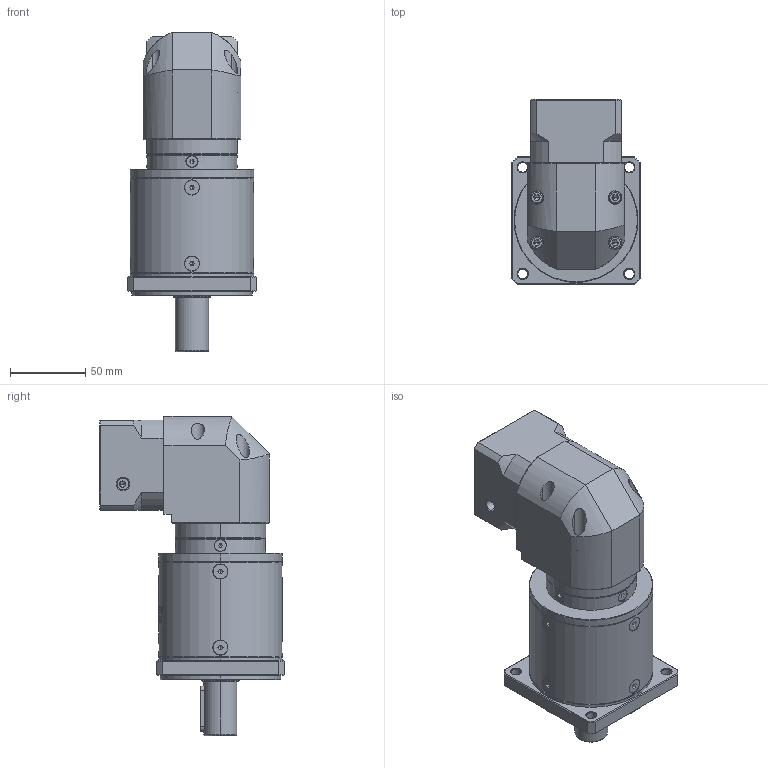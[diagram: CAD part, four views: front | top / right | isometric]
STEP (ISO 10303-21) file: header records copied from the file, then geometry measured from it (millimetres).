
FILE_DESCRIPTION (( 'STEP AP214' ), '1' );
FILE_NAME ('ZFR080-D22-L3-P2-6.35-38.1-47.14x47.14-M4.step', '2023-08-25T07:22:58', ( '' ), ( '' ), 'SwSTEP 2.0', 'SolidWorks 2016', '' );
FILE_SCHEMA (( 'AUTOMOTIVE_DESIGN' ));
Length unit declared in the file: millimetre
Products named in the file (1): ZFR080-D22-L3-P2-6.35-38.1-47.14x47.14-M4
Bounding box: 85 x 122.7 x 212 mm (x, y, z)
Volume: 895770.2 mm3; surface area: 108679.1 mm2
Topology: 17 solids, 18 shells, 2445 faces, 6370 edges, 4041 vertices
Faces by surface type: plane 1177, cylinder 444, bspline 406, cone 382, torus 36
Entity records: 125083 total; most frequent: CARTESIAN_POINT 43119, ORIENTED_EDGE 12648, DIRECTION 9770, EDGE_CURVE 6324, VERTEX_POINT 4041, VECTOR 3358, LINE 3358, AXIS2_PLACEMENT_3D 3206
